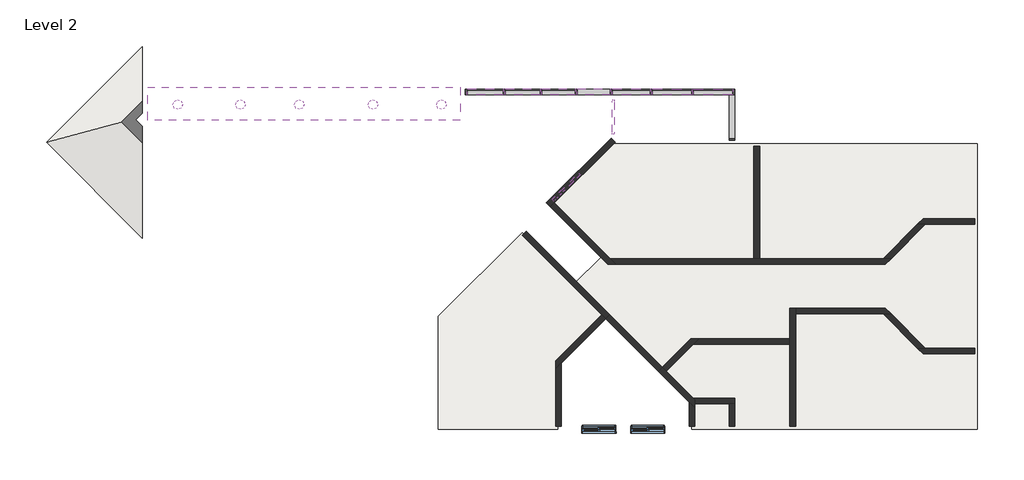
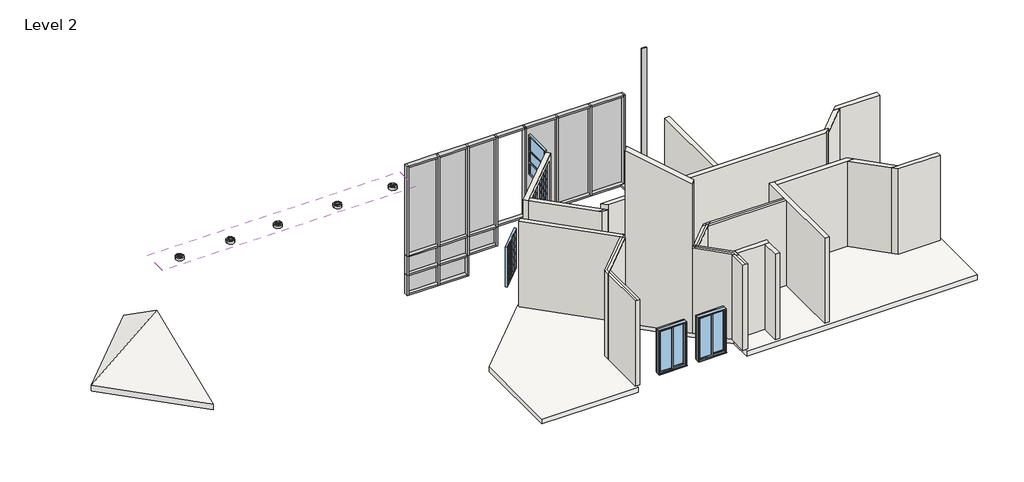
# One storey, incomplete: 36 members, 20 walls, 11 plates, 5 light fixtures, 4 windows, 1 covering, 1 roof, 1 slab.
"""IFC4 building model written with IfcOpenShell, lengths in millimetres."""

from ifc_helpers import new_model, si_unit, frame, origin, place, context, project, spatial, polyline, outline, extrude, faceted_brep, transform, mapped, element, save
from components import m_ceiling_flat_round_m_ceiling_flat_round_0a96185f, rectangular_mullion_50_x_150mm_4493f536, rectangular_mullion_50_x_150mm_de1853b4, rectangular_mullion_50_x_150mm_8e5675d2, rectangular_mullion_50_x_150mm_9345c535, rectangular_mullion_50_x_150mm_1075d9c1, rectangular_mullion_50_x_150mm_8773e9fb, rectangular_mullion_50_x_150mm_b88e030d, rectangular_mullion_50_x_150mm_7d543e93, rectangular_mullion_50_x_150mm_6a0d20dd, rectangular_mullion_50_x_150mm_eed8749f, rectangular_mullion_50_x_150mm_34c8f61c, rectangular_mullion_50_x_150mm_06768e08, rectangular_mullion_50_x_150mm_268284f3, rectangular_mullion_50_x_150mm_43357c11, rectangular_mullion_50_x_150mm_58437bb4, rectangular_mullion_50_x_150mm_c57c7bcc, rectangular_mullion_50_x_150mm_810f2881, rectangular_mullion_50_x_150mm_9eebf7fc, rectangular_mullion_50_x_150mm_9b8962c0, rectangular_mullion_50_x_150mm_770ce294, system_panel_glazed_c8ef80d3, system_panel_glazed_34ba24c1, system_panel_glazed_f87e748d, system_panel_glazed_923841d8, system_panel_glazed_8be31d3e, system_panel_glazed_b4a5a46e, system_panel_glazed_45f0150e, system_panel_glazed_6ca856d2, system_panel_glazed_14603bf6, system_panel_glazed_7d5881fa, system_panel_glazed_285a106d, m_sliding_with_trim_90x150_4a0fd2b2, w2_w2_0691327d, w3_w3_3cd2d508

model = new_model("IFC4")

# Units and contexts
model_context = context("Model", 3, world=origin())
ifc_project = project(units=[si_unit("LENGTHUNIT", "METRE", prefix="MILLI")], contexts=[model_context])

# Site, building, storey
site = spatial("IfcSite", under=ifc_project)
building = spatial("IfcBuilding", under=site)
storey = spatial("IfcBuildingStorey", under=building, Name="Level 2", Elevation=4400.0)

# Covering
placement = place(None, origin())
element("IfcCovering", 1, ObjectType="Plain", at=placement, inside=storey, context=model_context, shape_type="SweptSolid", body=[
    extrude(outline(polyline([(-13372.4352221, 9369.0591083), (-5172.4352221, 9369.0591083), (-5172.4352221, 8505.6369522), (-13372.4352221, 8505.6369522), (-13372.4352221, 9369.0591083)])), frame((0.0, 0.0, 7250.0), z_axis=(0.0, 0.0, 1.0), x_axis=(1.0, 0.0, 0.0)), (0.0, 0.0, 1.0), 45.0),
])

# Light fixtures
m_ceiling_flat_round_m_ceiling_flat_round_shape = m_ceiling_flat_round_m_ceiling_flat_round_0a96185f(model_context)
element("IfcLightFixture", 2, ObjectType="M_Ceiling - Flat Round : M_Ceiling - Flat Round", at=placement, inside=storey, context=model_context, shape_type="MappedRepresentation", body=[
    mapped(m_ceiling_flat_round_m_ceiling_flat_round_shape, transform((-5662.4137018, 8913.5733079, 4811.6), x_axis=(1.0, 0.0, 0.0), y_axis=(0.0, 1.0, 0.0), z_axis=(0.0, 0.0, 1.0))),
])
element("IfcLightFixture", 3, ObjectType="M_Ceiling - Flat Round : M_Ceiling - Flat Round", at=placement, inside=storey, context=model_context, shape_type="MappedRepresentation", body=[
    mapped(m_ceiling_flat_round_m_ceiling_flat_round_shape, transform((-7458.0121267, 8913.5733079, 4811.6), x_axis=(1.0, 0.0, 0.0), y_axis=(0.0, 1.0, 0.0), z_axis=(0.0, 0.0, 1.0))),
])
element("IfcLightFixture", 4, ObjectType="M_Ceiling - Flat Round : M_Ceiling - Flat Round", at=placement, inside=storey, context=model_context, shape_type="MappedRepresentation", body=[
    mapped(m_ceiling_flat_round_m_ceiling_flat_round_shape, transform((-9393.1308837, 8913.5733079, 4811.6), x_axis=(1.0, 0.0, 0.0), y_axis=(0.0, 1.0, 0.0), z_axis=(0.0, 0.0, 1.0))),
])
element("IfcLightFixture", 5, ObjectType="M_Ceiling - Flat Round : M_Ceiling - Flat Round", at=placement, inside=storey, context=model_context, shape_type="MappedRepresentation", body=[
    mapped(m_ceiling_flat_round_m_ceiling_flat_round_shape, transform((-10934.0587828, 8913.5733079, 4811.6), x_axis=(1.0, 0.0, 0.0), y_axis=(0.0, 1.0, 0.0), z_axis=(0.0, 0.0, 1.0))),
])
element("IfcLightFixture", 6, ObjectType="M_Ceiling - Flat Round : M_Ceiling - Flat Round", at=placement, inside=storey, context=model_context, shape_type="MappedRepresentation", body=[
    mapped(m_ceiling_flat_round_m_ceiling_flat_round_shape, transform((-12582.4932795, 8913.5733079, 4811.6), x_axis=(1.0, 0.0, 0.0), y_axis=(0.0, 1.0, 0.0), z_axis=(0.0, 0.0, 1.0))),
])

# Members
rectangular_mullion_50_x_150mm_shape = rectangular_mullion_50_x_150mm_4493f536(model_context)
element("IfcMember", 7, ObjectType="Rectangular Mullion : 50 x 150mm", at=placement, inside=storey, context=model_context, shape_type="MappedRepresentation", body=[
    mapped(rectangular_mullion_50_x_150mm_shape, transform((1962.5367276, 7973.2480245, 4400.0), x_axis=(-5.2727669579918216e-05, -0.9999999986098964, 0.0), y_axis=(-0.9999999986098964, 5.2727669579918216e-05, 0.0), z_axis=(0.0, 0.0, -1.0))),
])
rectangular_mullion_50_x_150mm_2_shape = rectangular_mullion_50_x_150mm_de1853b4(model_context)
element("IfcMember", 8, ObjectType="Rectangular Mullion : 50 x 150mm", at=placement, inside=storey, context=model_context, shape_type="MappedRepresentation", body=[
    mapped(rectangular_mullion_50_x_150mm_2_shape, transform((-4032.5240967, 9248.5666364, 3057.4038106), x_axis=(0.0, 0.0, -1.0), y_axis=(5.27276695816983e-05, 0.9999999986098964, 0.0), z_axis=(0.9999999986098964, -5.27276695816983e-05, 0.0))),
])
rectangular_mullion_50_x_150mm_3_shape = rectangular_mullion_50_x_150mm_8e5675d2(model_context)
element("IfcMember", 9, ObjectType="Rectangular Mullion : 50 x 150mm", at=placement, inside=storey, context=model_context, shape_type="MappedRepresentation", body=[
    mapped(rectangular_mullion_50_x_150mm_3_shape, transform((-4987.3960348, 9248.6169846, 4400.0), x_axis=(0.0, 0.0, 1.0), y_axis=(5.2727669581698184e-05, 0.9999999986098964, 0.0), z_axis=(-0.9999999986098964, 5.2727669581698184e-05, 0.0))),
])
element("IfcMember", 10, ObjectType="Rectangular Mullion : 50 x 150mm", at=placement, inside=storey, context=model_context, shape_type="MappedRepresentation", body=[
    mapped(rectangular_mullion_50_x_150mm_3_shape, transform((-4987.3960348, 9248.6169846, 3750.0), x_axis=(0.0, 0.0, 1.0), y_axis=(5.2727669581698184e-05, 0.9999999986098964, 0.0), z_axis=(-0.9999999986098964, 5.2727669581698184e-05, 0.0))),
])
element("IfcMember", 11, ObjectType="Rectangular Mullion : 50 x 150mm", at=placement, inside=storey, context=model_context, shape_type="MappedRepresentation", body=[
    mapped(rectangular_mullion_50_x_150mm_2_shape, transform((-4987.3960348, 9248.6169846, 7487.4038106), x_axis=(0.0, 0.0, 1.0), y_axis=(5.2727669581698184e-05, 0.9999999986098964, 0.0), z_axis=(-0.9999999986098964, 5.2727669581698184e-05, 0.0))),
])
rectangular_mullion_50_x_150mm_4_shape = rectangular_mullion_50_x_150mm_9345c535(model_context)
element("IfcMember", 12, ObjectType="Rectangular Mullion : 50 x 150mm", at=placement, inside=storey, context=model_context, shape_type="MappedRepresentation", body=[
    mapped(rectangular_mullion_50_x_150mm_4_shape, transform((1982.528196, 9248.2494767, 4400.0), x_axis=(0.0, 0.0, -1.0), y_axis=(5.272766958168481e-05, 0.9999999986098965, 0.0), z_axis=(0.9999999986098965, -5.272766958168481e-05, 0.0))),
])
rectangular_mullion_50_x_150mm_5_shape = rectangular_mullion_50_x_150mm_1075d9c1(model_context)
element("IfcMember", 13, ObjectType="Rectangular Mullion : 50 x 150mm", at=placement, inside=storey, context=model_context, shape_type="MappedRepresentation", body=[
    mapped(rectangular_mullion_50_x_150mm_5_shape, transform((-3022.5240981, 9248.5133815, 4400.0), x_axis=(0.0, 0.0, 1.0), y_axis=(5.272766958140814e-05, 0.9999999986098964, 0.0), z_axis=(-0.9999999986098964, 5.272766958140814e-05, 0.0))),
])
rectangular_mullion_50_x_150mm_6_shape = rectangular_mullion_50_x_150mm_8773e9fb(model_context)
element("IfcMember", 14, ObjectType="Rectangular Mullion : 50 x 150mm", at=placement, inside=storey, context=model_context, shape_type="MappedRepresentation", body=[
    mapped(rectangular_mullion_50_x_150mm_6_shape, transform((-3982.5240967, 9248.564, 4400.0), x_axis=(0.0, 0.0, 1.0), y_axis=(5.272766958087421e-05, 0.9999999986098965, 0.0), z_axis=(-0.9999999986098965, 5.272766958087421e-05, 0.0))),
])
rectangular_mullion_50_x_150mm_7_shape = rectangular_mullion_50_x_150mm_b88e030d(model_context)
element("IfcMember", 15, ObjectType="Rectangular Mullion : 50 x 150mm", at=placement, inside=storey, context=model_context, shape_type="MappedRepresentation", body=[
    mapped(rectangular_mullion_50_x_150mm_7_shape, transform((-1227.5241006, 9248.4187353, 4400.0), x_axis=(0.0, 0.0, -1.0), y_axis=(5.272766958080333e-05, 0.9999999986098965, 0.0), z_axis=(0.9999999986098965, -5.272766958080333e-05, 0.0))),
])
rectangular_mullion_50_x_150mm_8_shape = rectangular_mullion_50_x_150mm_7d543e93(model_context)
element("IfcMember", 16, ObjectType="Rectangular Mullion : 50 x 150mm", at=placement, inside=storey, context=model_context, shape_type="MappedRepresentation", body=[
    mapped(rectangular_mullion_50_x_150mm_8_shape, transform((-2122.5240993, 9248.4659266, 3750.0), x_axis=(-0.9999999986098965, 5.2727669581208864e-05, 0.0), y_axis=(5.2727669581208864e-05, 0.9999999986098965, 0.0), z_axis=(0.0, 0.0, -1.0))),
])
rectangular_mullion_50_x_150mm_9_shape = rectangular_mullion_50_x_150mm_6a0d20dd(model_context)
element("IfcMember", 17, ObjectType="Rectangular Mullion : 50 x 150mm", at=placement, inside=storey, context=model_context, shape_type="MappedRepresentation", body=[
    mapped(rectangular_mullion_50_x_150mm_9_shape, transform((-2147.5240993, 9248.4672448, 3750.0), x_axis=(0.0, 0.0, -1.0), y_axis=(5.272766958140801e-05, 0.9999999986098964, 0.0), z_axis=(0.9999999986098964, -5.272766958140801e-05, 0.0))),
])
rectangular_mullion_50_x_150mm_10_shape = rectangular_mullion_50_x_150mm_eed8749f(model_context)
element("IfcMember", 18, ObjectType="Rectangular Mullion : 50 x 150mm", at=placement, inside=storey, context=model_context, shape_type="MappedRepresentation", body=[
    mapped(rectangular_mullion_50_x_150mm_10_shape, transform((-4007.5240967, 9248.5653182, 3057.4038106), x_axis=(-0.9999999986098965, 5.2727669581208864e-05, 0.0), y_axis=(5.2727669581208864e-05, 0.9999999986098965, 0.0), z_axis=(0.0, 0.0, -1.0))),
])
element("IfcMember", 19, ObjectType="Rectangular Mullion : 50 x 150mm", at=placement, inside=storey, context=model_context, shape_type="MappedRepresentation", body=[
    mapped(rectangular_mullion_50_x_150mm_8_shape, transform((-3047.524098, 9248.5146997, 3750.0), x_axis=(-0.9999999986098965, 5.2727669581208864e-05, 0.0), y_axis=(5.2727669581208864e-05, 0.9999999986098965, 0.0), z_axis=(0.0, 0.0, -1.0))),
])
element("IfcMember", 20, ObjectType="Rectangular Mullion : 50 x 150mm", at=placement, inside=storey, context=model_context, shape_type="MappedRepresentation", body=[
    mapped(rectangular_mullion_50_x_150mm_8_shape, transform((-4007.5240967, 9248.5653182, 3750.0), x_axis=(-0.9999999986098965, 5.2727669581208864e-05, 0.0), y_axis=(5.2727669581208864e-05, 0.9999999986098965, 0.0), z_axis=(0.0, 0.0, -1.0))),
])
element("IfcMember", 21, ObjectType="Rectangular Mullion : 50 x 150mm", at=placement, inside=storey, context=model_context, shape_type="MappedRepresentation", body=[
    mapped(rectangular_mullion_50_x_150mm_7_shape, transform((-3097.524098, 9248.517336, 3057.4038106), x_axis=(0.0, 0.0, -1.0), y_axis=(5.272766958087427e-05, 0.9999999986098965, 0.0), z_axis=(0.9999999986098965, -5.272766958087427e-05, 0.0))),
])
rectangular_mullion_50_x_150mm_11_shape = rectangular_mullion_50_x_150mm_34c8f61c(model_context)
element("IfcMember", 22, ObjectType="Rectangular Mullion : 50 x 150mm", at=placement, inside=storey, context=model_context, shape_type="MappedRepresentation", body=[
    mapped(rectangular_mullion_50_x_150mm_11_shape, transform((-3982.5240967, 9248.564, 3750.0), x_axis=(0.0, 0.0, 1.0), y_axis=(5.272766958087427e-05, 0.9999999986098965, 0.0), z_axis=(-0.9999999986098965, 5.272766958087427e-05, 0.0))),
])
rectangular_mullion_50_x_150mm_12_shape = rectangular_mullion_50_x_150mm_06768e08(model_context)
element("IfcMember", 23, ObjectType="Rectangular Mullion : 50 x 150mm", at=placement, inside=storey, context=model_context, shape_type="MappedRepresentation", body=[
    mapped(rectangular_mullion_50_x_150mm_12_shape, transform((-3047.524098, 9248.5146997, 3750.0), x_axis=(0.9999999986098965, -5.2727669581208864e-05, 0.0), y_axis=(5.2727669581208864e-05, 0.9999999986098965, 0.0), z_axis=(0.0, 0.0, 1.0))),
])
rectangular_mullion_50_x_150mm_13_shape = rectangular_mullion_50_x_150mm_268284f3(model_context)
element("IfcMember", 24, ObjectType="Rectangular Mullion : 50 x 150mm", at=placement, inside=storey, context=model_context, shape_type="MappedRepresentation", body=[
    mapped(rectangular_mullion_50_x_150mm_13_shape, transform((902.603957, 9248.3064186, 4400.0), x_axis=(0.0, 0.0, -1.0), y_axis=(5.272766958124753e-05, 0.9999999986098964, 0.0), z_axis=(0.9999999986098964, -5.272766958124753e-05, 0.0))),
])
rectangular_mullion_50_x_150mm_14_shape = rectangular_mullion_50_x_150mm_43357c11(model_context)
element("IfcMember", 25, ObjectType="Rectangular Mullion : 50 x 150mm", at=placement, inside=storey, context=model_context, shape_type="MappedRepresentation", body=[
    mapped(rectangular_mullion_50_x_150mm_14_shape, transform((-179.8960415, 9248.3634963, 4400.0), x_axis=(0.0, 0.0, -1.0), y_axis=(5.2727669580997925e-05, 0.9999999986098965, 0.0), z_axis=(0.9999999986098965, -5.2727669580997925e-05, 0.0))),
])
rectangular_mullion_50_x_150mm_15_shape = rectangular_mullion_50_x_150mm_58437bb4(model_context)
element("IfcMember", 26, ObjectType="Rectangular Mullion : 50 x 150mm", at=placement, inside=storey, context=model_context, shape_type="MappedRepresentation", body=[
    mapped(rectangular_mullion_50_x_150mm_15_shape, transform((927.603957, 9248.3051004, 4400.0), x_axis=(-0.9999999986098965, 5.2727669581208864e-05, 0.0), y_axis=(5.2727669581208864e-05, 0.9999999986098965, 0.0), z_axis=(0.0, 0.0, -1.0))),
])
element("IfcMember", 27, ObjectType="Rectangular Mullion : 50 x 150mm", at=placement, inside=storey, context=model_context, shape_type="MappedRepresentation", body=[
    mapped(rectangular_mullion_50_x_150mm_15_shape, transform((-1202.5241006, 9248.4174171, 4400.0), x_axis=(-0.9999999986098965, 5.2727669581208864e-05, 0.0), y_axis=(5.2727669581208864e-05, 0.9999999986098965, 0.0), z_axis=(0.0, 0.0, -1.0))),
])
element("IfcMember", 28, ObjectType="Rectangular Mullion : 50 x 150mm", at=placement, inside=storey, context=model_context, shape_type="MappedRepresentation", body=[
    mapped(rectangular_mullion_50_x_150mm_15_shape, transform((-154.8960415, 9248.3621781, 4400.0), x_axis=(-0.9999999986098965, 5.2727669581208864e-05, 0.0), y_axis=(5.2727669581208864e-05, 0.9999999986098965, 0.0), z_axis=(0.0, 0.0, -1.0))),
])
element("IfcMember", 29, ObjectType="Rectangular Mullion : 50 x 150mm", at=placement, inside=storey, context=model_context, shape_type="MappedRepresentation", body=[
    mapped(rectangular_mullion_50_x_150mm_15_shape, transform((-2122.5240993, 9248.4659266, 4400.0), x_axis=(-0.9999999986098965, 5.2727669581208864e-05, 0.0), y_axis=(5.2727669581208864e-05, 0.9999999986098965, 0.0), z_axis=(0.0, 0.0, -1.0))),
])
element("IfcMember", 30, ObjectType="Rectangular Mullion : 50 x 150mm", at=placement, inside=storey, context=model_context, shape_type="MappedRepresentation", body=[
    mapped(rectangular_mullion_50_x_150mm_15_shape, transform((-3047.524098, 9248.5146997, 4400.0), x_axis=(-0.9999999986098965, 5.2727669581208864e-05, 0.0), y_axis=(5.2727669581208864e-05, 0.9999999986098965, 0.0), z_axis=(0.0, 0.0, -1.0))),
])
element("IfcMember", 31, ObjectType="Rectangular Mullion : 50 x 150mm", at=placement, inside=storey, context=model_context, shape_type="MappedRepresentation", body=[
    mapped(rectangular_mullion_50_x_150mm_15_shape, transform((-4007.5240967, 9248.5653182, 4400.0), x_axis=(-0.9999999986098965, 5.2727669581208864e-05, 0.0), y_axis=(5.2727669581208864e-05, 0.9999999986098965, 0.0), z_axis=(0.0, 0.0, -1.0))),
])
element("IfcMember", 32, ObjectType="Rectangular Mullion : 50 x 150mm", at=placement, inside=storey, context=model_context, shape_type="MappedRepresentation", body=[
    mapped(rectangular_mullion_50_x_150mm_4_shape, transform((952.6039569, 9248.3037822, 7487.4038106), x_axis=(0.0, 0.0, 1.0), y_axis=(5.2727669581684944e-05, 0.9999999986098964, 0.0), z_axis=(-0.9999999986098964, 5.2727669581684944e-05, 0.0))),
])
element("IfcMember", 33, ObjectType="Rectangular Mullion : 50 x 150mm", at=placement, inside=storey, context=model_context, shape_type="MappedRepresentation", body=[
    mapped(rectangular_mullion_50_x_150mm_13_shape, transform((-129.8960416, 9248.3608599, 7487.4038106), x_axis=(0.0, 0.0, 1.0), y_axis=(5.272766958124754e-05, 0.9999999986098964, 0.0), z_axis=(-0.9999999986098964, 5.272766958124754e-05, 0.0))),
])
element("IfcMember", 34, ObjectType="Rectangular Mullion : 50 x 150mm", at=placement, inside=storey, context=model_context, shape_type="MappedRepresentation", body=[
    mapped(rectangular_mullion_50_x_150mm_14_shape, transform((-1177.5241006, 9248.4160989, 7487.4038106), x_axis=(0.0, 0.0, 1.0), y_axis=(5.27276695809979e-05, 0.9999999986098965, 0.0), z_axis=(-0.9999999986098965, 5.27276695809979e-05, 0.0))),
])
rectangular_mullion_50_x_150mm_16_shape = rectangular_mullion_50_x_150mm_c57c7bcc(model_context)
element("IfcMember", 35, ObjectType="Rectangular Mullion : 50 x 150mm", at=placement, inside=storey, context=model_context, shape_type="MappedRepresentation", body=[
    mapped(rectangular_mullion_50_x_150mm_16_shape, transform((-2097.5240994, 9248.4646084, 7487.4038106), x_axis=(0.0, 0.0, 1.0), y_axis=(5.27276695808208e-05, 0.9999999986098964, 0.0), z_axis=(-0.9999999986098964, 5.27276695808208e-05, 0.0))),
])
element("IfcMember", 36, ObjectType="Rectangular Mullion : 50 x 150mm", at=placement, inside=storey, context=model_context, shape_type="MappedRepresentation", body=[
    mapped(rectangular_mullion_50_x_150mm_9_shape, transform((-3022.5240981, 9248.5133815, 7487.4038106), x_axis=(0.0, 0.0, 1.0), y_axis=(5.2727669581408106e-05, 0.9999999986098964, 0.0), z_axis=(-0.9999999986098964, 5.2727669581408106e-05, 0.0))),
])
rectangular_mullion_50_x_150mm_17_shape = rectangular_mullion_50_x_150mm_810f2881(model_context)
element("IfcMember", 37, ObjectType="Rectangular Mullion : 50 x 150mm", at=placement, inside=storey, context=model_context, shape_type="MappedRepresentation", body=[
    mapped(rectangular_mullion_50_x_150mm_17_shape, transform((-3982.5240967, 9248.564, 7487.4038106), x_axis=(0.0, 0.0, 1.0), y_axis=(5.272766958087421e-05, 0.9999999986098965, 0.0), z_axis=(-0.9999999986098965, 5.272766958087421e-05, 0.0))),
])
rectangular_mullion_50_x_150mm_18_shape = rectangular_mullion_50_x_150mm_9eebf7fc(model_context)
element("IfcMember", 38, ObjectType="Rectangular Mullion : 50 x 150mm", at=placement, inside=storey, context=model_context, shape_type="MappedRepresentation", body=[
    mapped(rectangular_mullion_50_x_150mm_18_shape, transform((2032.5281959, 9248.2468403, 7487.4038106), x_axis=(0.9999999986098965, -5.2727669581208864e-05, 0.0), y_axis=(5.2727669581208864e-05, 0.9999999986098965, 0.0), z_axis=(0.0, 0.0, 1.0))),
])
rectangular_mullion_50_x_150mm_19_shape = rectangular_mullion_50_x_150mm_9b8962c0(model_context)
element("IfcMember", 39, ObjectType="Rectangular Mullion : 50 x 150mm", at=placement, inside=storey, context=model_context, shape_type="MappedRepresentation", body=[
    mapped(rectangular_mullion_50_x_150mm_19_shape, transform((-5037.3960347, 9248.619621, 3750.0), x_axis=(-0.9999999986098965, 5.2727669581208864e-05, 0.0), y_axis=(5.2727669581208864e-05, 0.9999999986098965, 0.0), z_axis=(0.0, 0.0, -1.0))),
])
element("IfcMember", 40, ObjectType="Rectangular Mullion : 50 x 150mm", at=placement, inside=storey, context=model_context, shape_type="MappedRepresentation", body=[
    mapped(rectangular_mullion_50_x_150mm_12_shape, transform((-5037.3960347, 9248.619621, 3057.4038106), x_axis=(-0.9999999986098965, 5.2727669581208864e-05, 0.0), y_axis=(5.2727669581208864e-05, 0.9999999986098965, 0.0), z_axis=(0.0, 0.0, -1.0))),
])
element("IfcMember", 41, ObjectType="Rectangular Mullion : 50 x 150mm", at=placement, inside=storey, context=model_context, shape_type="MappedRepresentation", body=[
    mapped(rectangular_mullion_50_x_150mm_18_shape, transform((-5037.3960347, 9248.619621, 4400.0), x_axis=(-0.9999999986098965, 5.2727669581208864e-05, 0.0), y_axis=(5.2727669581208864e-05, 0.9999999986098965, 0.0), z_axis=(0.0, 0.0, -1.0))),
])
rectangular_mullion_50_x_150mm_20_shape = rectangular_mullion_50_x_150mm_770ce294(model_context)
element("IfcMember", 42, ObjectType="Rectangular Mullion : 50 x 150mm", at=placement, inside=storey, context=model_context, shape_type="MappedRepresentation", body=[
    mapped(rectangular_mullion_50_x_150mm_20_shape, transform((1962.6000009, 9173.2505274, 4400.0), x_axis=(0.0, 0.0, -1.0), y_axis=(-0.9999999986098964, 5.272766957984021e-05, 0.0), z_axis=(5.272766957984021e-05, 0.9999999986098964, 0.0))),
])

# Plates
system_panel_glazed_shape = system_panel_glazed_c8ef80d3(model_context)
element("IfcPlate", 43, ObjectType="System Panel : Glazed", at=placement, inside=storey, context=model_context, shape_type="MappedRepresentation", body=[
    mapped(system_panel_glazed_shape, transform((-4509.9600657, 9248.5918105, 3107.4038106), x_axis=(-0.9999999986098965, 5.2727669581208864e-05, 0.0), y_axis=(-5.2727669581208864e-05, -0.9999999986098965, 0.0), z_axis=(0.0, 0.0, 1.0))),
])
system_panel_glazed_2_shape = system_panel_glazed_34ba24c1(model_context)
element("IfcPlate", 44, ObjectType="System Panel : Glazed", at=placement, inside=storey, context=model_context, shape_type="MappedRepresentation", body=[
    mapped(system_panel_glazed_2_shape, transform((-4509.9600657, 9248.5918105, 4425.0), x_axis=(-0.9999999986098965, 5.2727669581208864e-05, 0.0), y_axis=(-5.2727669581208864e-05, -0.9999999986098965, 0.0), z_axis=(0.0, 0.0, 1.0))),
])
system_panel_glazed_3_shape = system_panel_glazed_f87e748d(model_context)
element("IfcPlate", 45, ObjectType="System Panel : Glazed", at=placement, inside=storey, context=model_context, shape_type="MappedRepresentation", body=[
    mapped(system_panel_glazed_3_shape, transform((-4509.9600657, 9248.5918105, 3775.0), x_axis=(-0.9999999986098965, 5.2727669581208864e-05, 0.0), y_axis=(-5.2727669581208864e-05, -0.9999999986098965, 0.0), z_axis=(0.0, 0.0, 1.0))),
])
system_panel_glazed_4_shape = system_panel_glazed_923841d8(model_context)
element("IfcPlate", 46, ObjectType="System Panel : Glazed", at=placement, inside=storey, context=model_context, shape_type="MappedRepresentation", body=[
    mapped(system_panel_glazed_4_shape, transform((-2585.0240987, 9248.4903131, 3800.0), x_axis=(-0.9999999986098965, 5.2727669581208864e-05, 0.0), y_axis=(-5.2727669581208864e-05, -0.9999999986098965, 0.0), z_axis=(0.0, 0.0, 1.0))),
])
system_panel_glazed_5_shape = system_panel_glazed_8be31d3e(model_context)
element("IfcPlate", 47, ObjectType="System Panel : Glazed", at=placement, inside=storey, context=model_context, shape_type="MappedRepresentation", body=[
    mapped(system_panel_glazed_5_shape, transform((-3527.5240974, 9248.5400089, 3775.0), x_axis=(-0.9999999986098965, 5.2727669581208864e-05, 0.0), y_axis=(-5.2727669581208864e-05, -0.9999999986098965, 0.0), z_axis=(0.0, 0.0, 1.0))),
])
system_panel_glazed_6_shape = system_panel_glazed_b4a5a46e(model_context)
element("IfcPlate", 48, ObjectType="System Panel : Glazed", at=placement, inside=storey, context=model_context, shape_type="MappedRepresentation", body=[
    mapped(system_panel_glazed_6_shape, transform((-3540.0240974, 9248.540668, 3107.4038106), x_axis=(-0.9999999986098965, 5.2727669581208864e-05, 0.0), y_axis=(-5.2727669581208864e-05, -0.9999999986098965, 0.0), z_axis=(0.0, 0.0, 1.0))),
])
system_panel_glazed_7_shape = system_panel_glazed_45f0150e(model_context)
element("IfcPlate", 49, ObjectType="System Panel : Glazed", at=placement, inside=storey, context=model_context, shape_type="MappedRepresentation", body=[
    mapped(system_panel_glazed_7_shape, transform((1467.5660765, 9248.2766295, 4450.0), x_axis=(-0.9999999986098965, 5.2727669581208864e-05, 0.0), y_axis=(-5.2727669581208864e-05, -0.9999999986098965, 0.0), z_axis=(0.0, 0.0, 1.0))),
])
system_panel_glazed_8_shape = system_panel_glazed_6ca856d2(model_context)
element("IfcPlate", 50, ObjectType="System Panel : Glazed", at=placement, inside=storey, context=model_context, shape_type="MappedRepresentation", body=[
    mapped(system_panel_glazed_8_shape, transform((386.3539577, 9248.3336393, 4450.0), x_axis=(-0.9999999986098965, 5.2727669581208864e-05, 0.0), y_axis=(-5.2727669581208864e-05, -0.9999999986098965, 0.0), z_axis=(0.0, 0.0, 1.0))),
])
system_panel_glazed_9_shape = system_panel_glazed_14603bf6(model_context)
element("IfcPlate", 51, ObjectType="System Panel : Glazed", at=placement, inside=storey, context=model_context, shape_type="MappedRepresentation", body=[
    mapped(system_panel_glazed_9_shape, transform((-678.7100711, 9248.3897976, 4450.0), x_axis=(-0.9999999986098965, 5.2727669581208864e-05, 0.0), y_axis=(-5.2727669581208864e-05, -0.9999999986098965, 0.0), z_axis=(0.0, 0.0, 1.0))),
])
system_panel_glazed_10_shape = system_panel_glazed_7d5881fa(model_context)
element("IfcPlate", 52, ObjectType="System Panel : Glazed", at=placement, inside=storey, context=model_context, shape_type="MappedRepresentation", body=[
    mapped(system_panel_glazed_10_shape, transform((-2585.0240987, 9248.4903131, 4425.0), x_axis=(-0.9999999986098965, 5.2727669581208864e-05, 0.0), y_axis=(-5.2727669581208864e-05, -0.9999999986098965, 0.0), z_axis=(0.0, 0.0, 1.0))),
])
system_panel_glazed_11_shape = system_panel_glazed_285a106d(model_context)
element("IfcPlate", 53, ObjectType="System Panel : Glazed", at=placement, inside=storey, context=model_context, shape_type="MappedRepresentation", body=[
    mapped(system_panel_glazed_11_shape, transform((-3527.5240974, 9248.5400089, 4425.0), x_axis=(-0.9999999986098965, 5.2727669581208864e-05, 0.0), y_axis=(-5.2727669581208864e-05, -0.9999999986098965, 0.0), z_axis=(0.0, 0.0, 1.0))),
])

# Roof
element("IfcRoof", 54, ObjectType="15cm", at=placement, inside=storey, context=model_context, shape_type="Brep", body=[
    faceted_brep([(-13512.4323144, 8560.7866892, 5685.8353362), (-13512.5983876, 5411.1462266, 4400.0), (-15996.5105255, 7895.3203202, 4400.0), (-13512.3364319, 10379.2324582, 4400.0), (-13512.5983876, 5411.1462266, 4584.7520861), (-13512.4303514, 8598.0143711, 5885.7855599), (-16025.8695244, 7924.6824153, 4584.7520861), (-13512.3333357, 10437.9535522, 4584.7520861), (-16025.8695244, 7924.6824153, 4400.0), (-13512.3333357, 10437.9535522, 4400.0)], [[[0, 1, 2]], [[2, 3, 0]], [[4, 5, 6]], [[7, 6, 5]], [[8, 6, 7, 9]], [[1, 4, 6, 8, 2]], [[2, 8, 9, 3]], [[7, 5, 4, 1, 0, 3, 9]]]),
])

# Slab
element("IfcSlab", 55, ObjectType="Generic 150mm", at=placement, inside=storey, context=model_context, shape_type="SweptSolid", body=[
    extrude(outline(polyline([(907.1370535, 393.3061673), (907.1744219, 1102.0128706), (-1353.6443176, 3363.0700381), (-2612.7727466, 2104.0743839), (-2612.8629416, 393.4917687), (-5742.8629373, 393.6568063), (-5742.7066185, 3358.3014631), (-3545.5597555, 5555.2166374), (-2184.4509755, 4193.9643136), (-1441.949708, 4936.3872846), (-2803.058488, 6297.6396083), (-1206.7745403, 7893.7552283), (8407.5325184, 7893.2482882), (8407.1370431, 392.9107098), (907.1370535, 393.3061673)])), frame((0.0, 0.0, 4230.0), z_axis=(0.0, 0.0, 1.0), x_axis=(1.0, 0.0, 0.0)), (0.0, 0.0, 1.0), 170.0),
])

# Walls
element("IfcWall", 56, ObjectType="15cm室內", at=placement, inside=storey, context=model_context, shape_type="Brep", body=[
    faceted_brep([(-3545.5634839, 5484.5059594, 4400.0), (-1459.7084704, 3398.4309697, 4400.0), (-1384.7124251, 3323.4270152, 4400.0), (-1353.648046, 3292.3593601, 4400.0), (-1353.648046, 3292.3593601, 7330.0), (-1410.2136057, 3348.9308852, 7330.0), (-1459.7084704, 3398.4309697, 7330.0), (-3545.5634839, 5484.5059594, 7330.0), (-3439.4918743, 5590.5663838, 4400.0), (-3439.4918743, 5590.5663838, 7330.0), (-1338.6376517, 3489.4906032, 7330.0), (-1304.141996, 3454.9913096, 7330.0), (-1247.5764363, 3398.4197845, 7330.0), (-1247.5764363, 3398.4197845, 4400.0), (-1338.6472551, 3307.3585691, 7330.0), (-1338.6412896, 3420.495654, 7330.0)], [[[0, 1, 2, 3, 4, 5, 6, 7]], [[8, 9, 10, 11, 12, 13]], [[3, 2, 1, 0, 8, 13]], [[4, 3, 13, 12, 14]], [[0, 7, 9, 8]], [[5, 4, 14, 15]], [[11, 10, 15]], [[14, 12, 11, 15]], [[7, 6, 5, 15, 10, 9]]]),
])
element("IfcWall", 57, ObjectType="15cm室內", at=placement, inside=storey, context=model_context, shape_type="Brep", body=[
    faceted_brep([(-2662.7791113, 1983.3663423, 4400.0), (-2512.7712024, 2133.358433, 4400.0), (-1353.648046, 3292.3593601, 4400.0), (-1353.648046, 3292.3593601, 7330.0), (-2512.7712024, 2133.358433, 7330.0), (-2582.7748932, 2063.362124, 7330.0), (-2662.7791113, 1983.3663423, 7330.0), (-2662.7679261, 2195.4983764, 4400.0), (-2662.7679261, 2195.4983764, 7330.0), (-1459.7084704, 3398.4309697, 7330.0), (-1459.7084704, 3398.4309697, 4400.0), (-2662.7731459, 2096.5034272, 7330.0), (-1410.2136057, 3348.9308852, 7330.0), (-2582.7689278, 2176.4992088, 7330.0)], [[[0, 1, 2, 3, 4, 5, 6]], [[7, 8, 9, 10]], [[2, 1, 0, 7, 10]], [[0, 6, 11, 8, 7]], [[3, 2, 10, 9, 12]], [[5, 4, 3, 12, 13]], [[12, 9, 8, 11, 6, 5, 13]]]),
])
element("IfcWall", 58, ObjectType="15cm室內", at=placement, inside=storey, context=model_context, shape_type="Brep", body=[
    faceted_brep([(-2662.7791113, 1983.3663423, 4400.0), (-2662.8587233, 473.494405, 4400.0), (-2662.8587233, 473.494405, 7330.0), (-2662.7791113, 1983.3663423, 7330.0), (-2512.7712024, 2133.358433, 4400.0), (-2512.7712024, 2133.358433, 7330.0), (-2512.8587236, 473.4864958, 7330.0), (-2512.8587236, 473.4864958, 4400.0), (-2582.7748932, 2063.362124, 7330.0), (-2582.8587235, 473.4901867, 7330.0)], [[[0, 1, 2, 3]], [[4, 5, 6, 7]], [[1, 0, 4, 7]], [[0, 3, 8, 5, 4]], [[2, 1, 7, 6, 9]], [[9, 6, 5, 8]], [[3, 2, 9, 8]]]),
])
element("IfcWall", 59, ObjectType="15cm室內", at=placement, inside=storey, context=model_context, shape_type="Brep", body=[
    faceted_brep([(-2803.0622164, 6226.9289303, 4400.0), (-2696.9906068, 6332.9893547, 4400.0), (-1099.4826196, 7930.328885, 4400.0), (-1099.4826196, 7930.328885, 7330.0), (-2696.9906068, 6332.9893547, 7330.0), (-2803.0622164, 6226.9289303, 7330.0), (-1988.4754356, 7041.4298131, 5796.1727713), (-2679.3120052, 6350.6660921, 5796.1727713), (-2679.3120052, 6350.6660921, 7160.0), (-1988.4754356, 7041.4298131, 7160.0), (-1217.0449064, 7812.7789952, 5796.1727713), (-1907.881476, 7122.0152742, 5796.1727713), (-1907.881476, 7122.0152742, 7160.0), (-1217.0449064, 7812.7789952, 7160.0), (-2909.1226408, 6333.0005399, 4400.0), (-2909.1226408, 6333.0005399, 7330.0), (-1205.543044, 8036.4004947, 7330.0), (-1205.543044, 8036.4004947, 4400.0), (-2094.53586, 7147.5014228, 5796.1727713), (-2094.53586, 7147.5014228, 7160.0), (-2785.3724296, 6456.7377018, 7160.0), (-2785.3724296, 6456.7377018, 5796.1727713), (-1323.1053308, 7918.8506048, 5796.1727713), (-1323.1053308, 7918.8506048, 7160.0), (-2013.9419004, 7228.0868838, 7160.0), (-2013.9419004, 7228.0868838, 5796.1727713)], [[[0, 1, 2, 3, 4, 5], [6, 7, 8, 9], [10, 11, 12, 13]], [[14, 15, 16, 17], [18, 19, 20, 21], [22, 23, 24, 25]], [[2, 1, 0, 14, 17]], [[3, 2, 17, 16]], [[7, 6, 18, 21]], [[8, 7, 21, 20]], [[9, 8, 20, 19]], [[6, 9, 19, 18]], [[11, 10, 22, 25]], [[12, 11, 25, 24]], [[13, 12, 24, 23]], [[10, 13, 23, 22]], [[0, 5, 15, 14]], [[5, 4, 3, 16, 15]]]),
])
element("IfcWall", 60, ObjectType="15cm室內", at=placement, inside=storey, context=model_context, shape_type="Brep", body=[
    faceted_brep([(-2803.0622164, 6226.9289303, 4400.0), (-1299.714366, 4723.4225354, 4400.0), (-1299.714366, 4723.4225354, 7330.0), (-1369.7106749, 4793.4262263, 7330.0), (-2803.0622164, 6226.9289303, 7330.0), (-2696.9906068, 6332.9893547, 4400.0), (-2696.9906068, 6332.9893547, 7330.0), (-1157.5786409, 4793.415041, 7330.0), (-1087.5823319, 4723.4113502, 7330.0), (-1087.5823319, 4723.4113502, 4400.0), (-1237.5744226, 4873.4192592, 4400.0), (-1338.5688983, 4793.4245842, 7330.0)], [[[0, 1, 2, 3, 4]], [[5, 6, 7, 8, 9, 10]], [[1, 0, 5, 10, 9]], [[2, 1, 9, 8]], [[0, 4, 6, 5]], [[3, 2, 8, 7, 11]], [[4, 3, 11, 7, 6]]]),
])
element("IfcWall", 61, ObjectType="15cm室內", at=placement, inside=storey, context=model_context, shape_type="Brep", body=[
    faceted_brep([(-1087.5823319, 4723.4113502, 4400.0), (5993.4313744, 4723.0379849, 4400.0), (5993.4313744, 4723.0379849, 7500.0), (-1087.5823319, 4723.4113502, 7500.0), (-1087.5823319, 4723.4113502, 7330.0), (-1237.5744226, 4873.4192592, 4400.0), (-1237.5744226, 4873.4192592, 7500.0), (6143.4392833, 4873.0300755, 7500.0), (6143.4392833, 4873.0300755, 7330.0), (6143.4392833, 4873.0300755, 4400.0), (5931.3072493, 4873.0412607, 4400.0), (2687.373271, 4873.2123058, 4400.0), (2537.3732712, 4873.220215, 4400.0)], [[[0, 1, 2, 3, 4]], [[5, 6, 7, 8, 9, 10, 11, 12]], [[1, 0, 5, 12, 11, 10, 9]], [[3, 2, 7, 6]], [[2, 1, 9, 8, 7]], [[0, 4, 3, 6, 5]]]),
])
element("IfcWall", 62, ObjectType="15cm室內", at=placement, inside=storey, context=model_context, shape_type="Brep", body=[
    faceted_brep([(987.1412716, 473.301949, 4400.0), (987.1664752, 951.2979745, 4400.0), (987.1664752, 951.2979745, 7330.0), (987.1412716, 473.301949, 7330.0), (837.1412718, 473.3098581, 4400.0), (837.1412718, 473.3098581, 7330.0), (837.1743846, 1101.3058834, 7330.0), (837.1743846, 1101.3058834, 4400.0), (907.1706935, 1031.3021926, 7330.0), (907.1412717, 473.3061672, 7330.0)], [[[0, 1, 2, 3]], [[4, 5, 6, 7]], [[1, 0, 4, 7]], [[2, 1, 7, 6, 8]], [[0, 3, 9, 5, 4]], [[8, 6, 5, 9]], [[3, 2, 8, 9]]]),
])
element("IfcWall", 63, ObjectType="15cm室內", at=placement, inside=storey, context=model_context, shape_type="Brep", body=[
    faceted_brep([(987.1720678, 1057.3639915, 4400.0), (1887.1720666, 1057.3165366, 4400.0), (2037.1720664, 1057.3086275, 4400.0), (2037.1720664, 1057.3086275, 7330.0), (1887.1720666, 1057.3165366, 7330.0), (987.1720678, 1057.3639915, 7330.0), (943.2459942, 1207.3663078, 4400.0), (943.2459942, 1207.3663078, 7330.0), (2037.1799755, 1207.3086272, 7330.0), (2037.1799755, 1207.3086272, 4400.0), (987.1776604, 1163.4300085, 4400.0), (987.1776604, 1163.4300085, 7330.0)], [[[0, 1, 2, 3, 4, 5]], [[6, 7, 8, 9]], [[2, 1, 0, 10, 6, 9]], [[3, 2, 9, 8]], [[0, 5, 11, 10]], [[11, 7, 6, 10]], [[5, 4, 3, 8, 7, 11]]]),
])
element("IfcWall", 64, ObjectType="15cm室內", at=placement, inside=storey, context=model_context, shape_type="SweptSolid", body=[
    extrude(outline(polyline([(1887.1412703, 473.2544941), (1887.1720666, 1057.3165366), (2037.1720664, 1057.3086275), (2037.1412701, 473.2465849), (1887.1412703, 473.2544941)])), frame((0.0, 0.0, 4400.0), z_axis=(0.0, 0.0, 1.0), x_axis=(1.0, 0.0, 0.0)), (0.0, 0.0, 1.0), 2930.0),
])
element("IfcWall", 65, ObjectType="15cm室內", at=placement, inside=storey, context=model_context, shape_type="Brep", body=[
    faceted_brep([(3487.2625417, 2773.1701266, 4400.0), (1093.3285623, 2773.2963532, 4400.0), (1093.3285623, 2773.2963532, 7330.0), (3487.2625417, 2773.1701266, 7330.0), (3487.2546326, 2623.1701268, 4400.0), (3487.2546326, 2623.1701268, 7330.0), (943.3206533, 2623.3042625, 7330.0), (943.3206533, 2623.3042625, 4400.0), (1023.130342, 2703.1055353, 7330.0), (3487.2588474, 2703.1055353, 7330.0)], [[[0, 1, 2, 3]], [[4, 5, 6, 7]], [[1, 0, 4, 7]], [[2, 1, 7, 6, 8]], [[0, 3, 9, 5, 4]], [[3, 2, 8, 9]], [[8, 6, 5, 9]]]),
])
element("IfcWall", 66, ObjectType="15cm室內", at=placement, inside=storey, context=model_context, shape_type="Brep", body=[
    faceted_brep([(881.1965282, 2773.3075384, 4400.0), (129.253922, 2021.4442244, 4400.0), (129.253922, 2021.4442244, 7330.0), (810.9871215, 2703.1055353, 7330.0), (881.1965282, 2773.3075384, 7330.0), (1093.3285623, 2773.2963532, 4400.0), (1093.3285623, 2773.2963532, 7330.0), (1023.130342, 2703.1055353, 7330.0), (943.3206533, 2623.3042625, 7330.0), (235.3143464, 1915.3726147, 7330.0), (235.3143464, 1915.3726147, 4400.0), (943.3206533, 2623.3042625, 4400.0), (994.333613, 2773.3015729, 7330.0), (185.8194817, 1964.8726992, 7330.0), (924.1301725, 2703.1055353, 7330.0)], [[[0, 1, 2, 3, 4]], [[5, 6, 7, 8, 9, 10, 11]], [[1, 0, 5, 11, 10]], [[0, 4, 12, 6, 5]], [[2, 1, 10, 9, 13]], [[7, 6, 12, 14]], [[3, 2, 13, 14]], [[4, 3, 14, 12]], [[13, 9, 8, 7, 14]]]),
])
element("IfcWall", 67, ObjectType="15cm室內", at=placement, inside=storey, context=model_context, shape_type="Brep", body=[
    faceted_brep([(3637.1412679, 473.1622206, 4400.0), (3637.2968145, 3423.1622165, 4400.0), (3637.3047237, 3573.1622163, 4400.0), (3637.3047237, 3573.1622163, 7330.0), (3637.2968145, 3423.1622165, 7330.0), (3637.1412679, 473.1622206, 7330.0), (3487.1412681, 473.1701298, 4400.0), (3487.1412681, 473.1701298, 7330.0), (3487.2546326, 2623.1701268, 7330.0), (3487.2588474, 2703.1055353, 7330.0), (3487.2625417, 2773.1701266, 7330.0), (3487.3047239, 3573.1701255, 7330.0), (3487.3047239, 3573.1701255, 4400.0), (3487.2625417, 2773.1701266, 4400.0), (3487.2546326, 2623.1701268, 4400.0)], [[[0, 1, 2, 3, 4, 5]], [[6, 7, 8, 9, 10, 11, 12, 13, 14]], [[2, 1, 0, 6, 14, 13, 12]], [[3, 2, 12, 11]], [[0, 5, 7, 6]], [[5, 4, 3, 11, 10, 9, 8, 7]]]),
])
element("IfcWall", 68, ObjectType="15cm室內", at=placement, inside=storey, context=model_context, shape_type="Brep", body=[
    faceted_brep([(3637.2968145, 3423.1622165, 4400.0), (5931.2307942, 3423.0412627, 4400.0), (6143.3628282, 3423.0300775, 4400.0), (6143.3628282, 3423.0300775, 7330.0), (5931.2307942, 3423.0412627, 7330.0), (3637.2968145, 3423.1622165, 7330.0), (3637.3047237, 3573.1622163, 4400.0), (3637.3047237, 3573.1622163, 7330.0), (5993.3707376, 3573.0379865, 7330.0), (5993.3707376, 3573.0379865, 4400.0)], [[[0, 1, 2, 3, 4, 5]], [[6, 7, 8, 9]], [[2, 1, 0, 6, 9]], [[3, 2, 9, 8]], [[0, 5, 7, 6]], [[5, 4, 3, 8, 7]]]),
])
element("IfcWall", 69, ObjectType="15cm室內", at=placement, inside=storey, context=model_context, shape_type="SweptSolid", body=[
    extrude(outline(polyline([(6831.183338, 2522.9938091), (5931.2307942, 3423.0412627), (6143.3628282, 3423.0300775), (7043.3153721, 2522.9826239), (6831.183338, 2522.9938091)])), frame((0.0, 0.0, 4400.0), z_axis=(0.0, 0.0, 1.0), x_axis=(1.0, 0.0, 0.0)), (0.0, 0.0, 1.0), 2930.0),
])
element("IfcWall", 70, ObjectType="15cm室內", at=placement, inside=storey, context=model_context, shape_type="Brep", body=[
    faceted_brep([(8337.2493531, 2522.9143977, 4400.0), (7043.3153721, 2522.9826239, 4400.0), (6831.183338, 2522.9938091, 4400.0), (6831.183338, 2522.9938091, 7330.0), (7043.3153721, 2522.9826239, 7330.0), (8337.2493531, 2522.9143977, 7330.0), (8337.2414439, 2372.914398, 4400.0), (8337.2414439, 2372.914398, 7330.0), (6981.1754286, 2372.9859002, 7330.0), (6981.1754286, 2372.9859002, 4400.0)], [[[0, 1, 2, 3, 4, 5]], [[6, 7, 8, 9]], [[2, 1, 0, 6, 9]], [[3, 2, 9, 8]], [[0, 5, 7, 6]], [[5, 4, 3, 8, 7]]]),
])
element("IfcWall", 71, ObjectType="15cm室內", at=placement, inside=storey, context=model_context, shape_type="SweptSolid", body=[
    extrude(outline(polyline([(2537.3732712, 4873.220215), (2537.5288356, 7823.5577998), (2687.5288354, 7823.5498906), (2687.373271, 4873.2123058), (2537.3732712, 4873.220215)])), frame((0.0, 0.0, 4400.0), z_axis=(0.0, 0.0, 1.0), x_axis=(1.0, 0.0, 0.0)), (0.0, 0.0, 1.0), 2930.0),
])
element("IfcWall", 72, ObjectType="15cm室內", at=placement, inside=storey, context=model_context, shape_type="Brep", body=[
    faceted_brep([(8337.4286272, 5922.914393, 4400.0), (6981.3626119, 5922.9858952, 4400.0), (6981.3626119, 5922.9858952, 7330.0), (8337.4286272, 5922.914393, 7330.0), (8337.420718, 5772.9143932, 4400.0), (8337.420718, 5772.9143932, 7330.0), (7043.486737, 5772.9826193, 7330.0), (6831.3547029, 5772.9938046, 7330.0), (6831.3547029, 5772.9938046, 4400.0), (7043.486737, 5772.9826193, 4400.0)], [[[0, 1, 2, 3]], [[4, 5, 6, 7, 8, 9]], [[1, 0, 4, 9, 8]], [[2, 1, 8, 7]], [[0, 3, 5, 4]], [[3, 2, 7, 6, 5]]]),
])
element("IfcWall", 73, ObjectType="15cm室內", at=placement, inside=storey, context=model_context, shape_type="SweptSolid", body=[
    extrude(outline(polyline([(7043.486737, 5772.9826193), (6143.4392833, 4873.0300755), (5931.3072493, 4873.0412607), (6831.3547029, 5772.9938046), (7043.486737, 5772.9826193)])), frame((0.0, 0.0, 4400.0), z_axis=(0.0, 0.0, 1.0), x_axis=(1.0, 0.0, 0.0)), (0.0, 0.0, 1.0), 2930.0),
])
element("IfcWall", 74, ObjectType="15cm室內", at=placement, inside=storey, context=model_context, shape_type="Brep", body=[
    faceted_brep([(23.1823124, 1915.3838, 4400.0), (837.1743846, 1101.3058834, 4400.0), (987.1664752, 951.2979745, 4400.0), (987.1664752, 951.2979745, 7330.0), (907.1706935, 1031.3021926, 7330.0), (837.1743846, 1101.3058834, 7330.0), (79.747872, 1858.8122748, 7330.0), (23.1823124, 1915.3838, 7330.0), (129.253922, 2021.4442244, 4400.0), (129.253922, 2021.4442244, 7330.0), (185.8194817, 1964.8726992, 7330.0), (235.3143464, 1915.3726147, 7330.0), (907.1818787, 1243.4342266, 7330.0), (943.2459942, 1207.3663078, 7330.0), (987.1776604, 1163.4300085, 7330.0), (987.1776604, 1163.4300085, 4400.0), (943.2459942, 1207.3663078, 4400.0), (235.3143464, 1915.3726147, 4400.0), (987.1720678, 1057.3639915, 4400.0), (987.1720678, 1057.3639915, 7330.0), (79.7538375, 1971.9493596, 7330.0), (136.3193972, 1915.3778345, 7330.0), (907.176659, 1144.4392774, 7330.0)], [[[0, 1, 2, 3, 4, 5, 6, 7]], [[8, 9, 10, 11, 12, 13, 14, 15, 16, 17]], [[2, 1, 0, 8, 17, 16, 15, 18]], [[14, 19, 3, 2, 18, 15]], [[0, 7, 20, 9, 8]], [[10, 9, 20, 21]], [[6, 5, 4, 22, 21]], [[7, 6, 21, 20]], [[4, 3, 19, 14, 13, 12, 11, 10, 21, 22]]]),
])
element("IfcWall", 75, ObjectType="15cm室內", at=placement, inside=storey, context=model_context, shape_type="Brep", body=[
    faceted_brep([(-1353.648046, 3292.3593601, 4400.0), (23.1823124, 1915.3838, 4400.0), (23.1823124, 1915.3838, 7330.0), (23.1823124, 1915.3838, 9519.1595389), (-1353.648046, 3292.3593601, 10314.1148342), (-1353.648046, 3292.3593601, 7330.0), (-1247.5764363, 3398.4197845, 4400.0), (-1247.5764363, 3398.4197845, 7330.0), (-1247.5764363, 3398.4197845, 10375.3520778), (129.253922, 2021.4442244, 9580.3967825), (129.253922, 2021.4442244, 7330.0), (129.253922, 2021.4442244, 4400.0)], [[[0, 1, 2, 3, 4, 5]], [[6, 7, 8, 9, 10, 11]], [[1, 0, 6, 11]], [[3, 2, 1, 11, 10, 9]], [[0, 5, 4, 8, 7, 6]], [[4, 3, 9, 8]]]),
])

# Windows
m_sliding_with_trim_90x150_shape = m_sliding_with_trim_90x150_4a0fd2b2(model_context)
element("IfcWindow", 76, ObjectType="M_Sliding with Trim : 90x150", at=placement, inside=storey, context=model_context, shape_type="MappedRepresentation", body=[
    mapped(m_sliding_with_trim_90x150_shape, transform((-1530.3626795, 398.434691, 3735.0), x_axis=(-0.9999999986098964, 5.2727669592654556e-05, 0.0), y_axis=(-5.2727669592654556e-05, -0.9999999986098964, 0.0), z_axis=(0.0, 0.0, 1.0))),
])
element("IfcWindow", 77, ObjectType="M_Sliding with Trim : 90x150", at=placement, inside=storey, context=model_context, shape_type="MappedRepresentation", body=[
    mapped(m_sliding_with_trim_90x150_shape, transform((-245.4126813, 398.3669386, 3735.0), x_axis=(-0.9999999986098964, 5.2727669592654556e-05, 0.0), y_axis=(-5.2727669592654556e-05, -0.9999999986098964, 0.0), z_axis=(0.0, 0.0, 1.0))),
])
w2_w2_shape = w2_w2_0691327d(model_context)
element("IfcWindow", 78, ObjectType="w2 : w2", at=placement, inside=storey, context=model_context, shape_type="MappedRepresentation", body=[
    mapped(w2_w2_shape, transform((0.0, 0.0, 0.0), x_axis=(1.0, 0.0, 0.0), y_axis=(0.0, 1.0, 0.0), z_axis=(0.0, 0.0, 1.0))),
])
w3_w3_shape = w3_w3_3cd2d508(model_context)
element("IfcWindow", 79, ObjectType="w3 : w3", at=placement, inside=storey, context=model_context, shape_type="MappedRepresentation", body=[
    mapped(w3_w3_shape, transform((0.0, 0.0, 0.0), x_axis=(1.0, 0.0, 0.0), y_axis=(0.0, 1.0, 0.0), z_axis=(0.0, 0.0, 1.0))),
])

save(model, "model.ifc")
